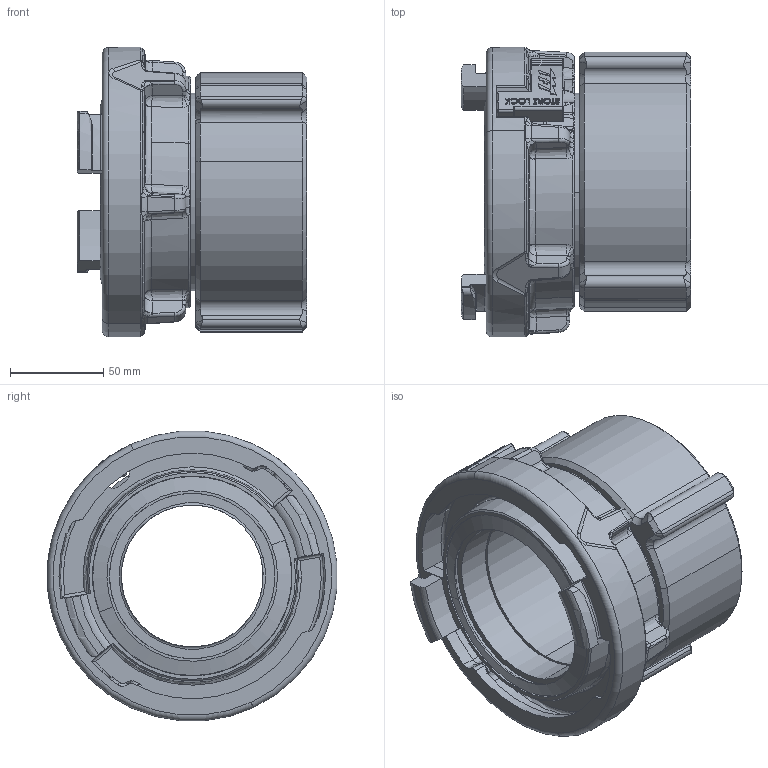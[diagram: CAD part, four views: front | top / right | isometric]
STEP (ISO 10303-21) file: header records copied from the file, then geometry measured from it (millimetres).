
FILE_DESCRIPTION (( 'STEP AP203' ), '1' );
FILE_NAME ('AA1SP-NL.step', '2014-05-13T18:30:35', ( 'user' ), ( '' ), 'SwSTEP 2.0', 'SolidWorks 2012', '' );
FILE_SCHEMA (( 'CONFIG_CONTROL_DESIGN' ));
Length unit declared in the file: inch
Products named in the file (1): AA1SP-NL
Bounding box: 123.37 x 155.7 x 155.55 mm (x, y, z)
Surface area: 151237.4 mm2 (no closed solid volume)
Topology: 0 solids, 17 shells, 952 faces, 3052 edges, 2022 vertices
Faces by surface type: bspline 320, plane 265, cylinder 197, cone 94, torus 74, sphere 2
Entity records: 49842 total; most frequent: CARTESIAN_POINT 26979, ORIENTED_EDGE 5218, DIRECTION 3696, EDGE_CURVE 3034, VERTEX_POINT 2021, AXIS2_PLACEMENT_3D 1315, LINE 1066, VECTOR 1066
